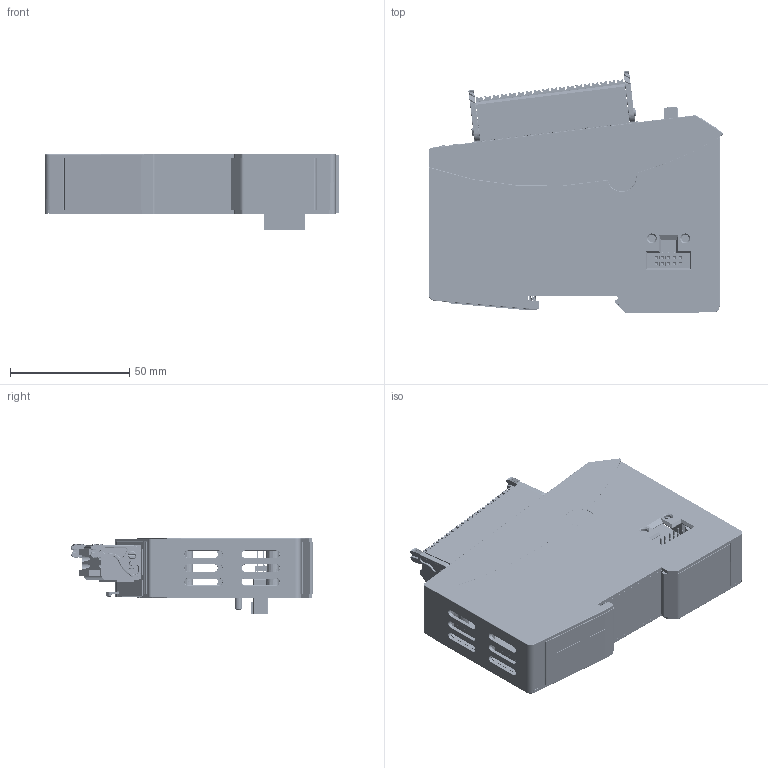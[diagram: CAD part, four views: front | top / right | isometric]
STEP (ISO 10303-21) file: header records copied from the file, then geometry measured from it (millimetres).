
FILE_DESCRIPTION(('CATIA V5 STEP Exchange'),'2;1');
FILE_NAME('Z:\DE\Automation\Data\Exchange\Dreiack\#694_Parker\3D-Daten 694\694_power_distribution.stp','2014-05-09T08:44:31+00:00',('none'),('none'),'CATIA Version 5 Release 19 SP 9 (IN-10)','CATIA V5 STEP AP214','none');
FILE_SCHEMA(('AUTOMOTIVE_DESIGN { 1 0 10303 214 1 1 1 1 }'));
Products named in the file (1): KEB-IO_power_distribution_059
Bounding box: 123.57 x 101.63 x 31.7 mm (x, y, z)
Volume: 88194.4 mm3; surface area: 104464.7 mm2
Topology: 3 solids, 50 shells, 7727 faces, 20921 edges, 13302 vertices
Faces by surface type: plane 4953, cylinder 1924, torus 351, cone 324, sphere 110, bspline 45, extrusion 16, revolution 4
Entity records: 246832 total; most frequent: CARTESIAN_POINT 62321, ORIENTED_EDGE 41614, DIRECTION 31742, EDGE_CURVE 20807, VECTOR 14731, LINE 14715, VERTEX_POINT 13302, AXIS2_PLACEMENT_3D 10654
